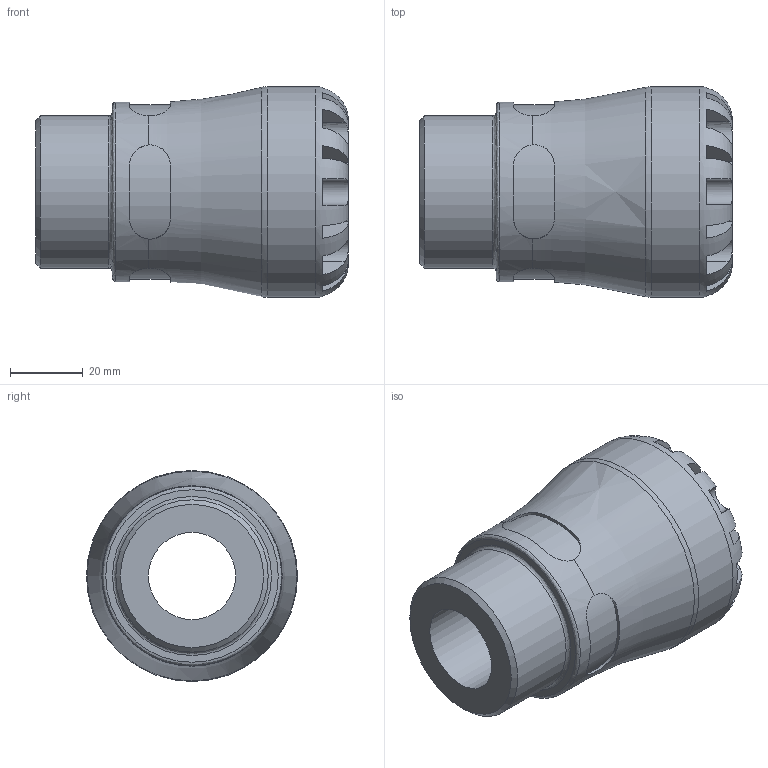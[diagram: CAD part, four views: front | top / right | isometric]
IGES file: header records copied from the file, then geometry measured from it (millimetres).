
Global section: file name: 100200032013_190200032013.ipt; native system: Autodesk Inventor 2015; preprocessor: unknown; author: KIM; date: 20170727.143945; units: millimetre
Bounding box: 86 x 58 x 58 mm (x, y, z)
Volume: 112148.1 mm3; surface area: 26049.4 mm2
Topology: 1 solids, 1 shells, 100 faces, 268 edges, 172 vertices
Faces by surface type: plane 60, revolution 24, cylinder 15, cone 1
Full cylindrical faces by diameter (mm): 41.91 x1, 49.3 x1, 58 x1
